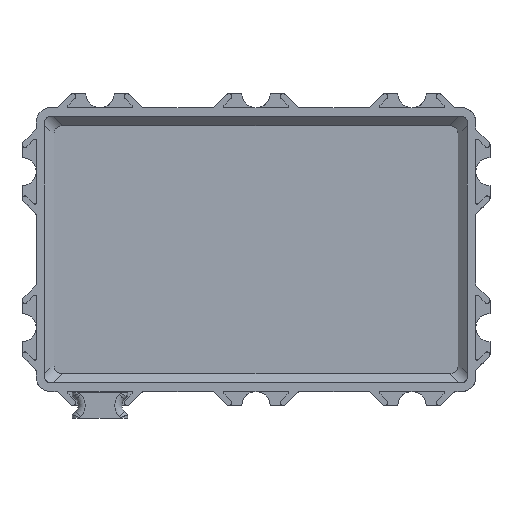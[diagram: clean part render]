
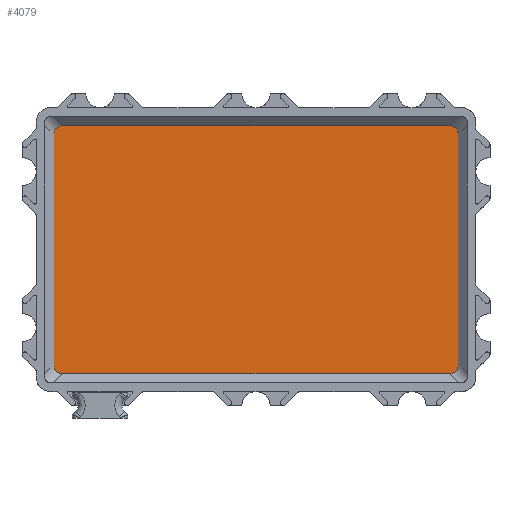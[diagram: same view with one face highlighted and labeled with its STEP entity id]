
A CAD part, top view. The second image highlights one B-rep face of the part: STEP entity #4079.
In plain terms, the highlighted planar face has unit normal (0, 0, 1).
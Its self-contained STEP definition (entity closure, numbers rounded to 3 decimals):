
#324=LINE('',#6720,#684);
#330=LINE('',#6753,#690);
#341=LINE('',#6816,#701);
#343=LINE('',#6819,#703);
#684=VECTOR('',#5507,10.);
#690=VECTOR('',#5527,10.);
#701=VECTOR('',#5564,10.);
#703=VECTOR('',#5568,10.);
#844=PLANE('',#4488);
#1023=FACE_OUTER_BOUND('',#1231,.T.);
#1231=EDGE_LOOP('',(#3400,#3401,#3402,#3403,#3404,#3405,#3406,#3407));
#1322=ELLIPSE('',#4462,3.118,1.8);
#1326=ELLIPSE('',#4470,3.118,1.8);
#1329=ELLIPSE('',#4478,3.118,1.8);
#1331=ELLIPSE('',#4482,3.118,1.8);
#1798=VERTEX_POINT('',#6690);
#1799=VERTEX_POINT('',#6691);
#1804=VERTEX_POINT('',#6719);
#1807=VERTEX_POINT('',#6729);
#1810=VERTEX_POINT('',#6752);
#1814=VERTEX_POINT('',#6779);
#1818=VERTEX_POINT('',#6804);
#1819=VERTEX_POINT('',#6805);
#2326=EDGE_CURVE('',#1798,#1799,#1322,.T.);
#2334=EDGE_CURVE('',#1804,#1798,#324,.T.);
#2339=EDGE_CURVE('',#1807,#1804,#1326,.T.);
#2344=EDGE_CURVE('',#1810,#1807,#330,.T.);
#2351=EDGE_CURVE('',#1814,#1810,#1329,.T.);
#2357=EDGE_CURVE('',#1818,#1819,#1331,.T.);
#2363=EDGE_CURVE('',#1819,#1814,#341,.T.);
#2365=EDGE_CURVE('',#1799,#1818,#343,.T.);
#3400=ORIENTED_EDGE('',*,*,#2326,.T.);
#3401=ORIENTED_EDGE('',*,*,#2365,.T.);
#3402=ORIENTED_EDGE('',*,*,#2357,.T.);
#3403=ORIENTED_EDGE('',*,*,#2363,.T.);
#3404=ORIENTED_EDGE('',*,*,#2351,.T.);
#3405=ORIENTED_EDGE('',*,*,#2344,.T.);
#3406=ORIENTED_EDGE('',*,*,#2339,.T.);
#3407=ORIENTED_EDGE('',*,*,#2334,.T.);
#4079=ADVANCED_FACE('',(#1023),#844,.F.);
#4462=AXIS2_PLACEMENT_3D('',#6692,#5493,#5494);
#4470=AXIS2_PLACEMENT_3D('',#6730,#5517,#5518);
#4478=AXIS2_PLACEMENT_3D('',#6780,#5540,#5541);
#4482=AXIS2_PLACEMENT_3D('',#6806,#5551,#5552);
#4488=AXIS2_PLACEMENT_3D('',#6820,#5569,#5570);
#5493=DIRECTION('center_axis',(0.,0.,1.));
#5494=DIRECTION('ref_axis',(-0.707,0.707,0.));
#5507=DIRECTION('',(-1.,0.,0.));
#5517=DIRECTION('center_axis',(0.,0.,1.));
#5518=DIRECTION('ref_axis',(0.707,0.707,0.));
#5527=DIRECTION('',(0.,1.,0.));
#5540=DIRECTION('center_axis',(0.,0.,1.));
#5541=DIRECTION('ref_axis',(0.707,-0.707,0.));
#5551=DIRECTION('center_axis',(0.,0.,1.));
#5552=DIRECTION('ref_axis',(-0.707,-0.707,0.));
#5564=DIRECTION('',(1.,0.,0.));
#5568=DIRECTION('',(0.,-1.,0.));
#5569=DIRECTION('center_axis',(0.,0.,-1.));
#5570=DIRECTION('ref_axis',(-1.,0.,0.));
#6690=CARTESIAN_POINT('',(5.77,39.503,-10.));
#6691=CARTESIAN_POINT('',(4.497,38.23,-10.));
#6692=CARTESIAN_POINT('Origin',(7.043,36.957,-10.));
#6719=CARTESIAN_POINT('',(60.23,39.503,-10.));
#6720=CARTESIAN_POINT('',(25.25,39.503,-10.));
#6729=CARTESIAN_POINT('',(61.503,38.23,-10.));
#6730=CARTESIAN_POINT('Origin',(58.957,36.957,-10.));
#6752=CARTESIAN_POINT('',(61.503,5.77,-10.));
#6753=CARTESIAN_POINT('',(61.503,27.,-10.));
#6779=CARTESIAN_POINT('',(60.23,4.497,-10.));
#6780=CARTESIAN_POINT('Origin',(58.957,7.043,-10.));
#6804=CARTESIAN_POINT('',(4.497,5.77,-10.));
#6805=CARTESIAN_POINT('',(5.77,4.497,-10.));
#6806=CARTESIAN_POINT('Origin',(7.043,7.043,-10.));
#6816=CARTESIAN_POINT('',(40.75,4.497,-10.));
#6819=CARTESIAN_POINT('',(4.497,17.,-10.));
#6820=CARTESIAN_POINT('Origin',(33.,22.,-10.));
